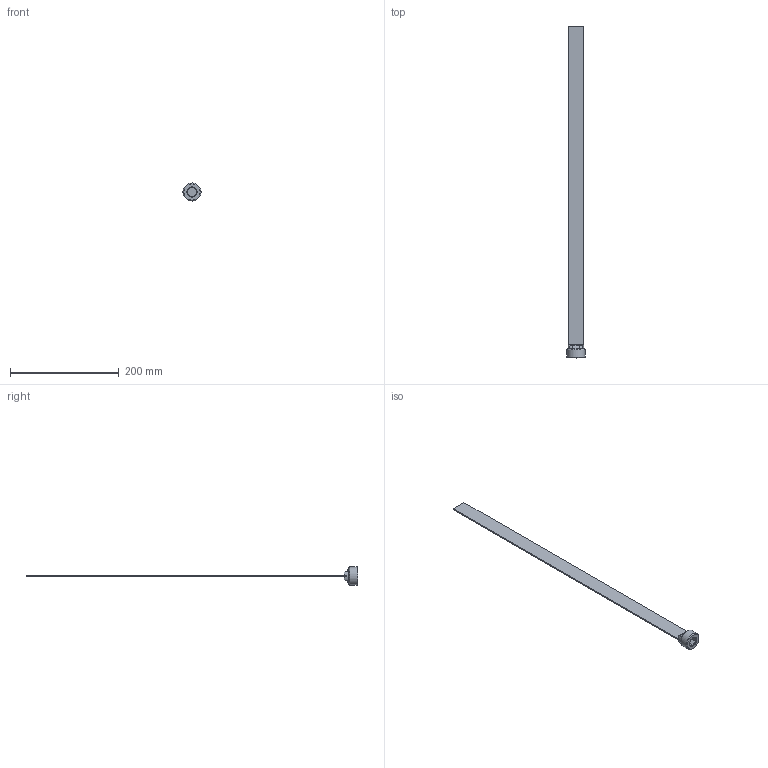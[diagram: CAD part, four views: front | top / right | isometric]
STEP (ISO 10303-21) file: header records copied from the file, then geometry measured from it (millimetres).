
FILE_DESCRIPTION(/* description */ (''),/* implementation_level */ '2;1');
FILE_NAME(/* name */ 'C:/Users/drich/Desktop/SB1X24 BSP v1.step',/* time_stamp */ '2020-01-04T16:00:57-06:00',/* author */ (''),/* organization */ (''),/* preprocessor_version */ 'ST-DEVELOPER v18',/* originating_system */ 'Autodesk Translation Framework v8.12.0.6',/* authorisation */ '');
FILE_SCHEMA (('AUTOMOTIVE_DESIGN { 1 0 10303 214 3 1 1 }'));
Length unit declared in the file: inch
Products named in the file (1): SB1X24 BSP
Bounding box: 33.07 x 609.6 x 33.07 mm (x, y, z)
Volume: 53794.2 mm3; surface area: 40547.8 mm2
Topology: 1 solids, 1 shells, 42 faces, 110 edges, 72 vertices
Faces by surface type: plane 20, cylinder 8, torus 7, bspline 4, cone 3
Full cylindrical faces by diameter (mm): 28.169 x1, 33.069 x1
Entity records: 1673 total; most frequent: CARTESIAN_POINT 637, ORIENTED_EDGE 220, DIRECTION 193, EDGE_CURVE 110, AXIS2_PLACEMENT_3D 74, VERTEX_POINT 72, LINE 45, VECTOR 45
